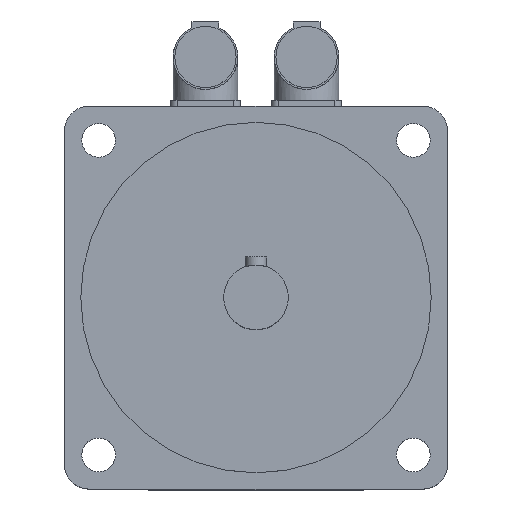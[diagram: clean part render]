
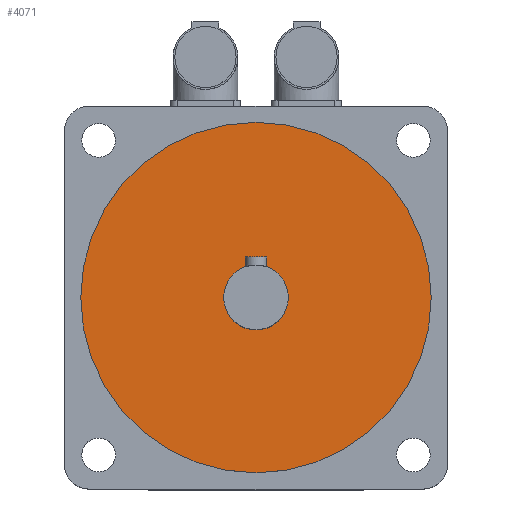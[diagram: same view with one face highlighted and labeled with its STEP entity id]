
A CAD part, top view. The second image highlights one B-rep face of the part: STEP entity #4071.
In plain terms, the highlighted planar face has unit normal (0, 0, 1).
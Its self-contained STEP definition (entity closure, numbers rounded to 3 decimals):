
#28=FACE_BOUND('',#533,.T.);
#79=PLANE('',#4432);
#278=FACE_OUTER_BOUND('',#532,.T.);
#532=EDGE_LOOP('',(#2985));
#533=EDGE_LOOP('',(#2986));
#1517=CIRCLE('',#4427,12.);
#1518=CIRCLE('',#4430,65.);
#1774=VERTEX_POINT('',#6532);
#1775=VERTEX_POINT('',#6536);
#2232=EDGE_CURVE('',#1774,#1774,#1517,.T.);
#2233=EDGE_CURVE('',#1775,#1775,#1518,.T.);
#2985=ORIENTED_EDGE('',*,*,#2233,.T.);
#2986=ORIENTED_EDGE('',*,*,#2232,.T.);
#4071=ADVANCED_FACE('',(#278,#28),#79,.F.);
#4427=AXIS2_PLACEMENT_3D('',#6533,#5205,#5206);
#4430=AXIS2_PLACEMENT_3D('',#6537,#5211,#5212);
#4432=AXIS2_PLACEMENT_3D('',#6540,#5215,#5216);
#5205=DIRECTION('center_axis',(0.,0.,
-1.));
#5206=DIRECTION('ref_axis',(-1.,0.,0.));
#5211=DIRECTION('center_axis',(0.,0.,
1.));
#5212=DIRECTION('ref_axis',(-1.,0.,0.));
#5215=DIRECTION('center_axis',(0.,0.,
-1.));
#5216=DIRECTION('ref_axis',(-1.,0.,0.));
#6532=CARTESIAN_POINT('',(12.,0.,186.5));
#6533=CARTESIAN_POINT('Origin',(0.,0.,
186.5));
#6536=CARTESIAN_POINT('',(65.,0.,186.5));
#6537=CARTESIAN_POINT('Origin',(0.,0.,
186.5));
#6540=CARTESIAN_POINT('Origin',(0.,0.,
186.5));
